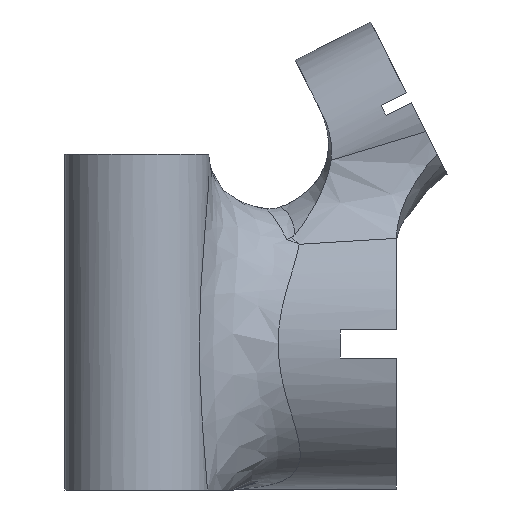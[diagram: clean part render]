
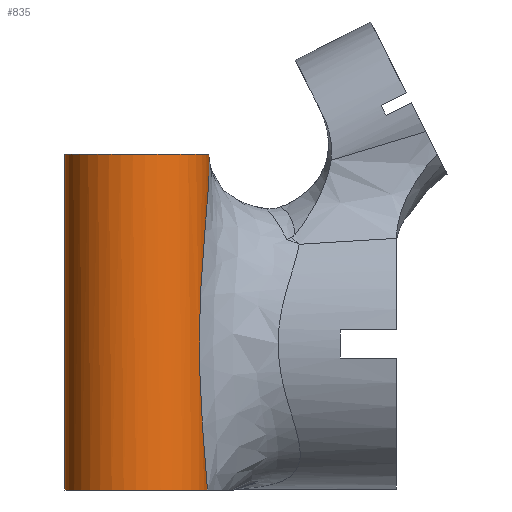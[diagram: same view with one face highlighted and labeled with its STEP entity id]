
A CAD part, left-side view. The second image highlights one B-rep face of the part: STEP entity #835.
In plain terms, the highlighted cylindrical face has radius 2.55 mm (diameter 5.1 mm), a partial arc.
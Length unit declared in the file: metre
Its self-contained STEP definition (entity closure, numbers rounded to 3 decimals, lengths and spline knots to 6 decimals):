
#27=CYLINDRICAL_SURFACE('',#910,0.00255);
#50=LINE('',#1631,#87);
#51=LINE('',#1632,#88);
#87=VECTOR('',#1032,1.);
#88=VECTOR('',#1033,1.);
#127=CIRCLE('',#911,0.00255);
#128=CIRCLE('',#912,0.00255);
#239=ORIENTED_EDGE('',*,*,#489,.F.);
#240=ORIENTED_EDGE('',*,*,#490,.T.);
#241=ORIENTED_EDGE('',*,*,#417,.T.);
#242=ORIENTED_EDGE('',*,*,#491,.T.);
#243=ORIENTED_EDGE('',*,*,#492,.T.);
#244=ORIENTED_EDGE('',*,*,#470,.T.);
#417=EDGE_CURVE('',#550,#551,#636,.T.);
#470=EDGE_CURVE('',#599,#598,#665,.T.);
#489=EDGE_CURVE('',#612,#598,#127,.T.);
#490=EDGE_CURVE('',#612,#550,#50,.T.);
#491=EDGE_CURVE('',#551,#613,#51,.T.);
#492=EDGE_CURVE('',#613,#599,#128,.T.);
#550=VERTEX_POINT('',#1159);
#551=VERTEX_POINT('',#1160);
#598=VERTEX_POINT('',#1483);
#599=VERTEX_POINT('',#1491);
#612=VERTEX_POINT('',#1630);
#613=VERTEX_POINT('',#1633);
#636=B_SPLINE_CURVE_WITH_KNOTS('',3,(#1148,#1149,#1150,#1151,#1152,#1153,
#1154,#1155,#1156,#1157,#1158),.UNSPECIFIED.,.F.,.F.,(4,1,1,1,1,1,1,1,4),
(-0.0037,-0.002264,-0.000827,0.000609,
0.002045,0.003481,0.004917,0.006353,
0.007789),.UNSPECIFIED.);
#665=B_SPLINE_CURVE_WITH_KNOTS('',3,(#1484,#1485,#1486,#1487,#1488,#1489,
#1490),.UNSPECIFIED.,.F.,.F.,(4,1,1,1,4),(0.003485,0.006588,
0.009692,0.012795,0.015898),
 .UNSPECIFIED.);
#711=EDGE_LOOP('',(#239,#240,#241,#242,#243,#244));
#764=FACE_BOUND('',#711,.T.);
#835=ADVANCED_FACE('',(#764),#27,.T.);
#910=AXIS2_PLACEMENT_3D('',#1628,#1028,#1029);
#911=AXIS2_PLACEMENT_3D('',#1629,#1030,#1031);
#912=AXIS2_PLACEMENT_3D('',#1634,#1034,#1035);
#1028=DIRECTION('',(0.,0.,-1.));
#1029=DIRECTION('',(-1.,0.,0.));
#1030=DIRECTION('',(0.,0.,1.));
#1031=DIRECTION('',(1.,0.,0.));
#1032=DIRECTION('',(0.,0.,-1.));
#1033=DIRECTION('',(0.,0.,-1.));
#1034=DIRECTION('',(0.,0.,1.));
#1035=DIRECTION('',(1.,0.,0.));
#1148=CARTESIAN_POINT('',(-0.002991,0.000457,0.008738));
#1149=CARTESIAN_POINT('',(-0.002905,-0.000017,0.008811));
#1150=CARTESIAN_POINT('',(-0.003026,-0.001039,0.008733));
#1151=CARTESIAN_POINT('',(-0.003851,-0.00203,0.007903));
#1152=CARTESIAN_POINT('',(-0.004501,-0.002357,0.006619));
#1153=CARTESIAN_POINT('',(-0.004725,-0.002428,0.005176));
#1154=CARTESIAN_POINT('',(-0.004501,-0.002358,0.003738));
#1155=CARTESIAN_POINT('',(-0.00385,-0.002029,0.002451));
#1156=CARTESIAN_POINT('',(-0.003027,-0.001042,0.001625));
#1157=CARTESIAN_POINT('',(-0.002905,-0.000018,0.001545));
#1158=CARTESIAN_POINT('',(-0.002991,0.000457,0.001618));
#1159=CARTESIAN_POINT('',(-0.002991,0.000457,0.008738));
#1160=CARTESIAN_POINT('',(-0.002991,0.000457,0.001618));
#1483=CARTESIAN_POINT('',(-0.005302,-0.002542,0.0119));
#1484=CARTESIAN_POINT('',(-0.005996,-0.002501,0.));
#1485=CARTESIAN_POINT('',(-0.006326,-0.002436,0.000961));
#1486=CARTESIAN_POINT('',(-0.006736,-0.002237,0.002963));
#1487=CARTESIAN_POINT('',(-0.006844,-0.002168,0.006034));
#1488=CARTESIAN_POINT('',(-0.006463,-0.002386,0.009067));
#1489=CARTESIAN_POINT('',(-0.005818,-0.002582,0.01102));
#1490=CARTESIAN_POINT('',(-0.005302,-0.002542,0.0119));
#1491=CARTESIAN_POINT('',(-0.005996,-0.002501,0.));
#1628=CARTESIAN_POINT('',(-0.0055,0.,0.0119));
#1629=CARTESIAN_POINT('',(-0.0055,0.,0.0119));
#1630=CARTESIAN_POINT('',(-0.002991,0.000457,0.0119));
#1631=CARTESIAN_POINT('',(-0.002991,0.000457,0.0119));
#1632=CARTESIAN_POINT('',(-0.002991,0.000457,0.0119));
#1633=CARTESIAN_POINT('',(-0.002991,0.000457,0.));
#1634=CARTESIAN_POINT('',(-0.0055,0.,0.));
